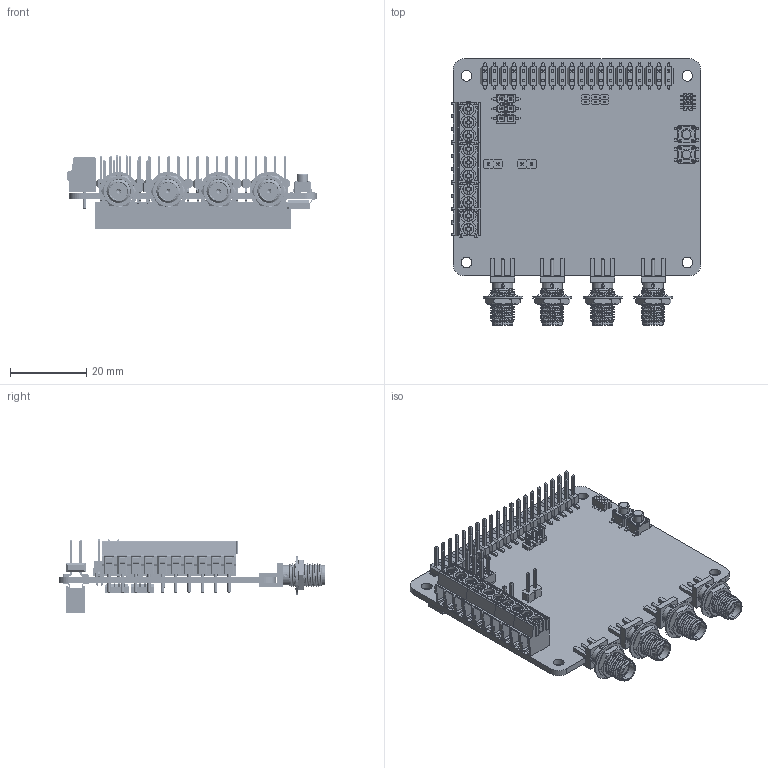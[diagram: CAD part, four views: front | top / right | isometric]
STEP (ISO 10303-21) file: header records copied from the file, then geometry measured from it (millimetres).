
FILE_DESCRIPTION(('FreeCAD Model'),'2;1');
FILE_NAME('Open CASCADE Shape Model','2026-05-18T08:08:00',(''),(''), 'Open CASCADE STEP processor 7.6','FreeCAD','Unknown');
FILE_SCHEMA(('AUTOMOTIVE_DESIGN { 1 0 10303 214 1 1 1 1 }'));
Length unit declared in the file: millimetre
Products named in the file (132): Unnamed; J1; 132384_RGB55298; J2; J4; J3; SW1; PTS 647 SN50 SMTR2 LFS--3DModel-STEP-269445_RGB8421519; PTS 647 SN50 SMTR2 LFS--3DModel-STEP-269445_RGB8421512; PTS 647 SN50 SMTR2 LFS--3DModel-STEP-269445_RGB8421513; PTS 647 SN50 SMTR2 LFS--3DModel-STEP-269445_RGB8421514; PTS 647 SN50 SMTR2 LFS--3DModel-STEP-269445_RGB8421515; PTS 647 SN50 SMTR2 LFS--3DModel-STEP-269445_RGB8421516; PTS 647 SN50 SMTR2 LFS--3DModel-STEP-269445_RGB8421517; PTS 647 SN50 SMTR2 LFS--3DModel-STEP-269445_RGB8421518; SW2; PTS 647 SN50 SMTR2 LFS--3DModel-STEP-269445_RGB8421511; J14; 61300211121_Download_STP_61300211121_rev002; 61300211121001; 6130xx11121_PIN002; J13; 61300211121_Download_STP_61300211121_rev1; J7; NPTC202KFMS-RC_RGB8421545; NPTC202KFMS-RC_RGB8421504; NPTC202KFMS-RC_RGB8421505; NPTC202KFMS-RC_RGB8421506; NPTC202KFMS-RC_RGB8421507; NPTC202KFMS-RC_RGB8421508; NPTC202KFMS-RC_RGB8421509; NPTC202KFMS-RC_RGB8421510; NPTC202KFMS-RC_RGB8421511; NPTC202KFMS-RC_RGB8421512; NPTC202KFMS-RC_RGB8421513; NPTC202KFMS-RC_RGB8421514; NPTC202KFMS-RC_RGB8421515; NPTC202KFMS-RC_RGB8421516; NPTC202KFMS-RC_RGB8421517; NPTC202KFMS-RC_RGB8421518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
Assembly tree (197 placements, depth 5):
  Unnamed
    J1
      132384_RGB55298
    J2
      132384_RGB55298
    J4
      132384_RGB55298
    J3
      132384_RGB55298
    SW1
      PTS 647 SN50 SMTR2 LFS--3DModel-STEP-269445_RGB8421519
        PTS 647 SN50 SMTR2 LFS--3DModel-STEP-269445_RGB8421512
        PTS 647 SN50 SMTR2 LFS--3DModel-STEP-269445_RGB8421513
        PTS 647 SN50 SMTR2 LFS--3DModel-STEP-269445_RGB8421514
        PTS 647 SN50 SMTR2 LFS--3DModel-STEP-269445_RGB8421515
        PTS 647 SN50 SMTR2 LFS--3DModel-STEP-269445_RGB8421516
        PTS 647 SN50 SMTR2 LFS--3DModel-STEP-269445_RGB8421517
        PTS 647 SN50 SMTR2 LFS--3DModel-STEP-269445_RGB8421518
    SW2
      PTS 647 SN50 SMTR2 LFS--3DModel-STEP-269445_RGB8421511
        PTS 647 SN50 SMTR2 LFS--3DModel-STEP-269445_RGB8421512
        PTS 647 SN50 SMTR2 LFS--3DModel-STEP-269445_RGB8421513
        PTS 647 SN50 SMTR2 LFS--3DModel-STEP-269445_RGB8421514
        PTS 647 SN50 SMTR2 LFS--3DModel-STEP-269445_RGB8421515
        PTS 647 SN50 SMTR2 LFS--3DModel-STEP-269445_RGB8421516
        PTS 647 SN50 SMTR2 LFS--3DModel-STEP-269445_RGB8421517
        PTS 647 SN50 SMTR2 LFS--3DModel-STEP-269445_RGB8421518
    J14
      61300211121_Download_STP_61300211121_rev002
        61300211121001
        6130xx11121_PIN002  x2
    J13
      61300211121_Download_STP_61300211121_rev1
        61300211121001
        6130xx11121_PIN002  x2
    J7
      NPTC202KFMS-RC_RGB8421545
        NPTC202KFMS-RC_RGB8421504
        NPTC202KFMS-RC_RGB8421505
        NPTC202KFMS-RC_RGB8421506
        NPTC202KFMS-RC_RGB8421507
        NPTC202KFMS-RC_RGB8421508
        NPTC202KFMS-RC_RGB8421509
        NPTC202KFMS-RC_RGB8421510
        NPTC202KFMS-RC_RGB8421511
        NPTC202KFMS-RC_RGB8421512
        NPTC202KFMS-RC_RGB8421513
        NPTC202KFMS-RC_RGB8421514
        NPTC202KFMS-RC_RGB8421515
        NPTC202KFMS-RC_RGB8421516
        NPTC202KFMS-RC_RGB8421517
        NPTC202KFMS-RC_RGB8421518
        NPTC202KFMS-RC_RGB8421519
        NPTC202KFMS-RC_RGB8421520
        NPTC202KFMS-RC_RGB8421521
        NPTC202KFMS-RC_RGB8421522
        NPTC202KFMS-RC_RGB8421523
        NPTC202KFMS-RC_RGB8421524
        NPTC202KFMS-RC_RGB8421525
        NPTC202KFMS-RC_RGB8421526
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Bounding box: 65.48 x 69.99 x 19.31 mm (x, y, z)
Volume: 11916.1 mm3; surface area: 22396.8 mm2
Topology: 151 solids, 151 shells, 8176 faces, 21820 edges, 14026 vertices
Faces by surface type: plane 6148, cylinder 1592, bspline 188, cone 156, sphere 52, extrusion 20, revolution 16, torus 4
Full cylindrical faces by diameter (mm): 0.66 x6, 1 x4, 1.6 x10, 2.8 x4
Entity records: 178973 total; most frequent: CARTESIAN_POINT 38690, ORIENTED_EDGE 28600, DIRECTION 27548, EDGE_CURVE 14300, VECTOR 11838, LINE 11828, VERTEX_POINT 9118, AXIS2_PLACEMENT_3D 7851
